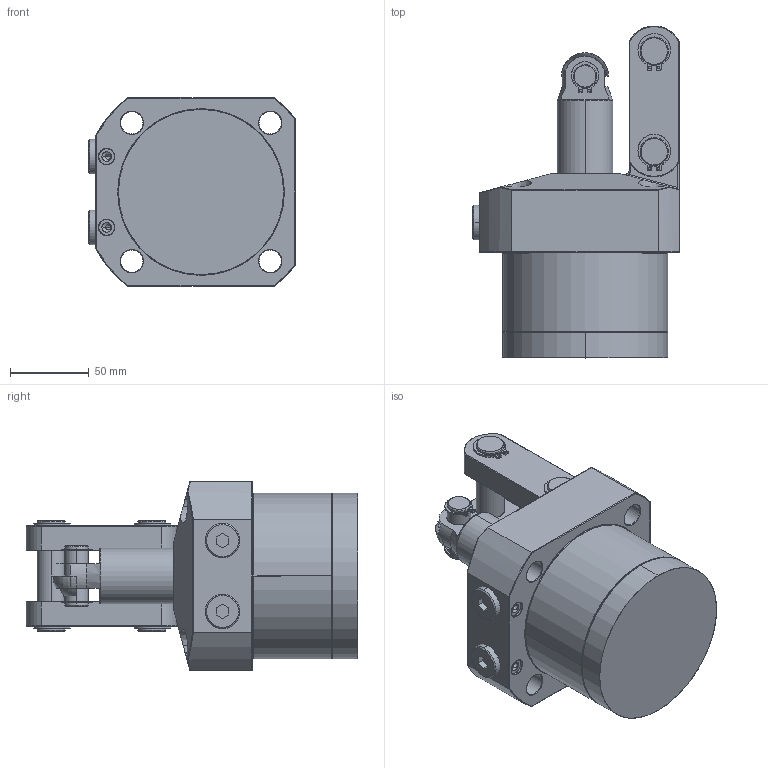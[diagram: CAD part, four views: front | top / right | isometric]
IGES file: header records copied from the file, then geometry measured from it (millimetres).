
Start section: SolidWorks IGES file using analytic representation for surfaces
Global section: file name: D:\abhilash\nijil\cylinder\LKA Series\con v lka\105lk\lk105cc\105 CC PT\0402-1051.IGS; native system: SolidWorks 2010; preprocessor: SolidWorks 2010; author: nidheesh; date: 130730.102206; units: millimetre
Bounding box: 131.5 x 210.94 x 120 mm (x, y, z)
Surface area: 124384.9 mm2 (no closed solid volume)
Topology: 0 solids, 0 shells, 333 faces, 4650 edges, 4649 vertices
Faces by surface type: revolution 195, bspline 138
